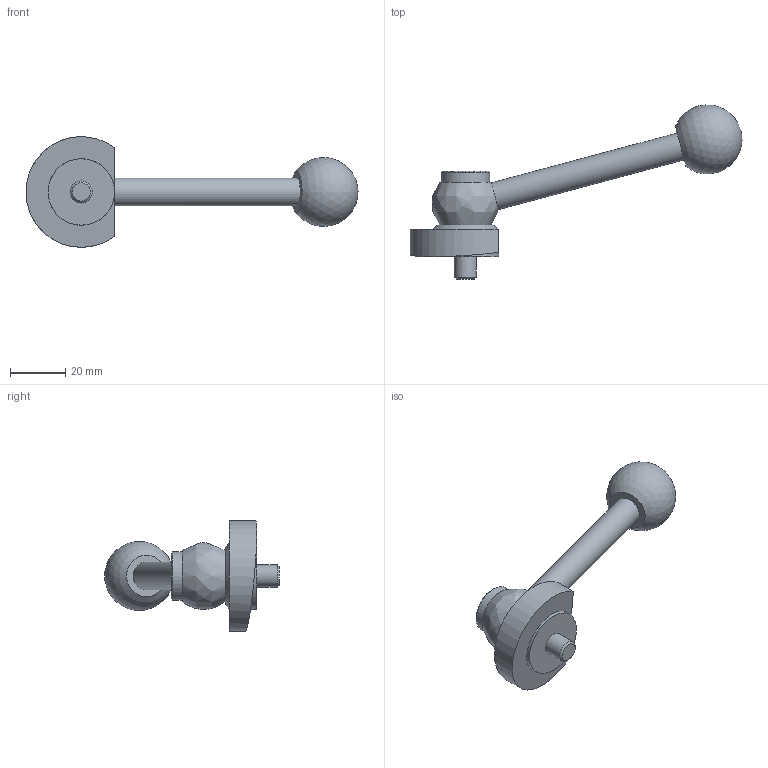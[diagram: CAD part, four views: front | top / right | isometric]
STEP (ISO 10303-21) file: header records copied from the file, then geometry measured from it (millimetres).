
FILE_DESCRIPTION( ( 'STEP AP203' ), '1' );
FILE_NAME( 'C:/Temp/Ganter_Step_05_03_2020/data/2_3/gn_918_2/Clamping bolt GN 918.2-40-KV-R.stp', '2020-03-05T13:12:05', ( 'License CC BY-ND 4.0' ), ( 'CADENAS' ), ' ', 'PARTsolutions', ' ' );
FILE_SCHEMA( ( 'CONFIG_CONTROL_DESIGN' ) );
Length unit declared in the file: millimetre
Products named in the file (1): _Clamping bolt GN 918.2-40-KV-R
Bounding box: 120 x 62.9 x 39.98 mm (x, y, z)
Volume: 30797.1 mm3; surface area: 8992.2 mm2
Topology: 1 solids, 1 shells, 33 faces, 77 edges, 48 vertices
Faces by surface type: plane 21, cylinder 6, cone 4, bspline 1, sphere 1
Full cylindrical faces by diameter (mm): 5 x1, 8 x1, 10 x1, 17.5 x1, 24 x1
Entity records: 925 total; most frequent: CARTESIAN_POINT 228, DIRECTION 142, ORIENTED_EDGE 108, AXIS2_PLACEMENT_3D 56, EDGE_CURVE 54, EDGE_LOOP 48, VERTEX_POINT 40, FACE_OUTER_BOUND 39
